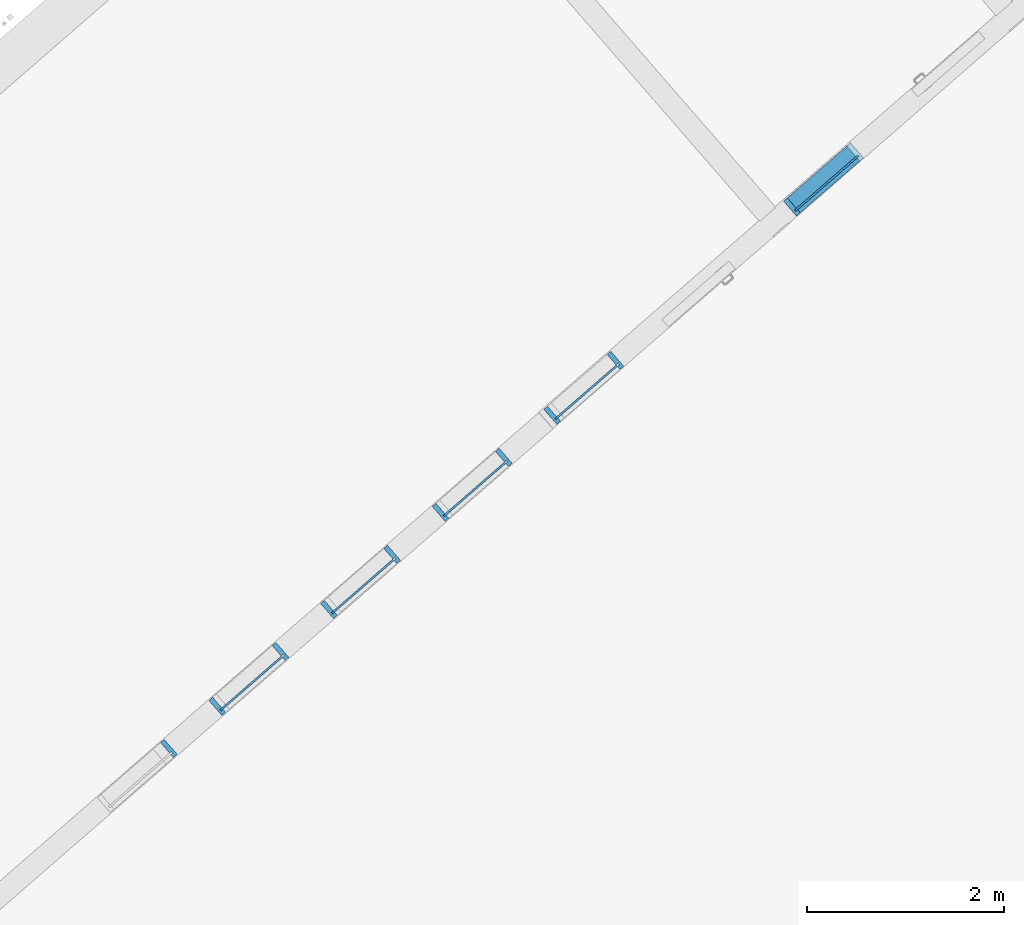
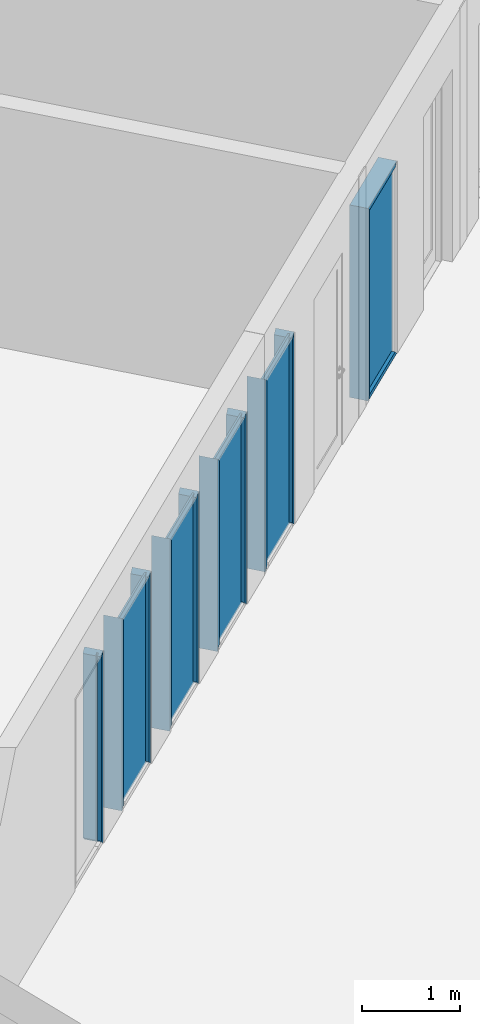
# One storey, part 6 of 124: 17 discrete accessories, 6 elements without a shape of their own.
"""IFC2X3 building model written with IfcOpenShell, lengths in millimetres."""

from ifc_helpers import new_model, entity, si_unit, converted_unit, derived_unit, money_unit, direction, frame, origin_with_axes, place, context, subcontext, project, spatial, polyline, outline, extrude, clip, halfspace, material, material_list, type_object, element, aggregate, save


model = new_model("IFC2X3")

# Units and contexts
model_context = context("Model", 3, precision=1e-05, world=origin_with_axes(), true_north=direction((0.0, 1.0)))
body_context = subcontext(model_context, "Body", "Model", "MODEL_VIEW")
ifc_project = project(units=[si_unit("LENGTHUNIT", "METRE", prefix="MILLI"), si_unit("AREAUNIT", "SQUARE_METRE"), si_unit("VOLUMEUNIT", "CUBIC_METRE"), converted_unit("PLANEANGLEUNIT", "DEGREE", entity("IfcPlaneAngleMeasure", 0.0174532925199), si_unit("PLANEANGLEUNIT", "RADIAN"), dimensions=[0, 0, 0, 0, 0, 0, 0]), si_unit("SOLIDANGLEUNIT", "STERADIAN"), money_unit("EUR"), converted_unit("TIMEUNIT", "Year", entity("IfcTimeMeasure", 31556926.0), si_unit("TIMEUNIT", "SECOND"), dimensions=[0, 0, 1, 0, 0, 0, 0]), si_unit("MASSUNIT", "GRAM", prefix="KILO"), si_unit("THERMODYNAMICTEMPERATUREUNIT", "DEGREE_CELSIUS"), si_unit("LUMINOUSINTENSITYUNIT", "LUMEN"), si_unit("ENERGYUNIT", "JOULE", prefix="MEGA"), derived_unit("THERMALCONDUCTANCEUNIT", [(si_unit("POWERUNIT", "WATT"), 1), (si_unit("LENGTHUNIT", "METRE"), -1), (si_unit("THERMODYNAMICTEMPERATUREUNIT", "KELVIN"), -1)]), derived_unit("SPECIFICHEATCAPACITYUNIT", [(si_unit("ENERGYUNIT", "JOULE"), 1), (si_unit("MASSUNIT", "GRAM", prefix="KILO"), -1), (si_unit("THERMODYNAMICTEMPERATUREUNIT", "KELVIN"), -1)]), derived_unit("MASSDENSITYUNIT", [(si_unit("MASSUNIT", "GRAM", prefix="KILO"), 1), (si_unit("VOLUMEUNIT", "CUBIC_METRE"), -1)])], contexts=[model_context])

# Site, building, storey
site_placement = place(None, origin_with_axes())
site = spatial("IfcSite", under=ifc_project, at=site_placement, Name="Site", CompositionType="ELEMENT")
building_placement = place(site_placement, origin_with_axes())
building = spatial("IfcBuilding", under=site, at=building_placement, Name="Building", CompositionType="ELEMENT")
storey_placement = place(building_placement, frame((0.0, 0.0, -1615.0), z_axis=(0.0, 0.0, 1.0), x_axis=(1.0, 0.0, 0.0)))
storey = spatial("IfcBuildingStorey", under=building, at=storey_placement, Name="0  korrus", CompositionType="ELEMENT", Elevation=-1615.0)

# Curtain wall, discrete accessory
curtain_wall_type = type_object("IfcCurtainWallType", Name="KS-07", PredefinedType="NOTDEFINED")
curtain_wall_1_placement = place(storey_placement, frame((145489.197566, 87628.0086428, -0.000131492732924), z_axis=(0.0, 0.0, 1.0), x_axis=(1.0, 0.0, 0.0)))
curtain_wall_1 = element("IfcCurtainWall", 1, at=curtain_wall_1_placement, inside=storey, type_object=curtain_wall_type, Name="Klaas-sein")
ifc_material_1 = material(Name="Aluminium MUST")
ifc_material_list = material_list([ifc_material_1, ifc_material_1, ifc_material_1])
discrete_accessory_type_1 = type_object("IfcDiscreteAccessoryType", Name="50 x 200")
discrete_accessory_1_placement = place(curtain_wall_1_placement, frame((264.148367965, 229.620673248, 0.0), z_axis=(0.0, 0.0, 1.0), x_axis=(-0.754709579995, -0.656059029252, 0.0)))
discrete_accessory_1 = element("IfcDiscreteAccessory", 2, at=discrete_accessory_1_placement, type_object=discrete_accessory_type_1, material=ifc_material_list, Name="KS-07 profiil", context=body_context, shape_type="Clipping", body=[
    clip(clip(extrude(outline(polyline([(-25.4283297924, -8.85437993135), (-12.3071492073, -23.9485715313), (6.56059029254, -7.54709579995), (-6.56059029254, 7.54709579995), (-25.4283297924, -8.85437993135)])), frame((0.0, 0.0, 0.0), z_axis=(0.0, 0.0, 1.0), x_axis=(-0.754709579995, 0.656059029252, 0.0)), (0.0, 0.0, 1.0), 2400.00001788), halfspace(frame((1200.00000894, 0.0, 1200.00000894), z_axis=(-0.707106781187, 0.0, -0.707106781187), x_axis=(0.0, 1.0, 0.0)), True)), halfspace(frame((0.0, 0.0, 0.0), z_axis=(-0.707106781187, 0.0, 0.707106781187), x_axis=(0.0, -1.0, 0.0)), True)),
    clip(clip(extrude(outline(polyline([(-136.144333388, 80.4034855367), (-44.2960692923, -25.2558556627), (-6.56059029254, 7.54709579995), (-98.4088543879, 113.206436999), (-136.144333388, 80.4034855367)])), frame((0.0, 0.0, 0.0), z_axis=(0.0, 0.0, 1.0), x_axis=(-0.754709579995, 0.656059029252, 0.0)), (0.0, 0.0, 1.0), 2400.00001788), halfspace(frame((1200.00000894, 0.0, 1200.00000894), z_axis=(-0.707106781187, 0.0, -0.707106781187), x_axis=(0.0, 1.0, 0.0)), True)), halfspace(frame((0.0, 0.0, 0.0), z_axis=(-0.707106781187, 0.0, 0.707106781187), x_axis=(0.0, -1.0, 0.0)), True)),
    clip(clip(extrude(outline(polyline([(32.8029514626, -37.7354789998), (6.56059029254, -7.54709579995), (-31.1748887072, -40.3500472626), (-4.93252753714, -70.5384304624), (32.8029514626, -37.7354789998)])), frame((0.0, 0.0, 0.0), z_axis=(0.0, 0.0, 1.0), x_axis=(-0.754709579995, 0.656059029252, 0.0)), (0.0, 0.0, 1.0), 2400.00001788), halfspace(frame((1200.00000894, 0.0, 1200.00000894), z_axis=(-0.707106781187, 0.0, -0.707106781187), x_axis=(0.0, 1.0, 0.0)), True)), halfspace(frame((0.0, 0.0, 0.0), z_axis=(-0.707106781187, 0.0, 0.707106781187), x_axis=(0.0, -1.0, 0.0)), True)),
])
aggregate(curtain_wall_1, [discrete_accessory_1])

# Curtain wall, discrete accessories
curtain_wall_2_placement = place(storey_placement, frame((152372.169212, 93611.2845687, 0.0), z_axis=(0.0, 0.0, 1.0), x_axis=(1.0, 0.0, 0.0)))
curtain_wall_2 = element("IfcCurtainWall", 3, at=curtain_wall_2_placement, inside=storey, type_object=curtain_wall_type, Name="Klaas-sein")
discrete_accessory_2_placement = place(curtain_wall_2_placement, frame((-339.619310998, -295.226563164, 2400.00001788), z_axis=(0.754709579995, 0.656059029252, 0.0), x_axis=(0.0, 0.0, 1.0)))
discrete_accessory_2 = element("IfcDiscreteAccessory", 4, at=discrete_accessory_2_placement, type_object=discrete_accessory_type_1, material=ifc_material_list, Name="KS-07 profiil", context=body_context, shape_type="Clipping", body=[
    clip(clip(extrude(outline(polyline([(-9.99999999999, 25.0), (-9.99999999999, 0.0), (10.0, 0.0), (10.0, 25.0), (-9.99999999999, 25.0)])), frame((0.0, 0.0, 0.0), z_axis=(0.0, 0.0, 1.0), x_axis=(0.0, 1.0, 0.0)), (0.0, 0.0, 1.0), 900.0), halfspace(frame((0.0, 0.0, 0.0), z_axis=(0.707106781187, 0.0, 0.707106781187), x_axis=(0.0, -1.0, 0.0)), True)), halfspace(frame((-450.0, 0.0, 450.0), z_axis=(0.707106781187, 0.0, -0.707106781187), x_axis=(0.0, 1.0, 0.0)), True)),
    clip(clip(extrude(outline(polyline([(-150.0, 50.0), (-150.0, 0.0), (-9.99999999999, 0.0), (-9.99999999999, 50.0), (-150.0, 50.0)])), frame((0.0, 0.0, 0.0), z_axis=(0.0, 0.0, 1.0), x_axis=(0.0, 1.0, 0.0)), (0.0, 0.0, 1.0), 900.0), halfspace(frame((0.0, 0.0, 0.0), z_axis=(0.707106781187, 0.0, 0.707106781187), x_axis=(0.0, -1.0, 0.0)), True)), halfspace(frame((-450.0, 0.0, 450.0), z_axis=(0.707106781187, 0.0, -0.707106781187), x_axis=(0.0, 1.0, 0.0)), True)),
    clip(clip(extrude(outline(polyline([(50.0, 0.0), (50.0, 50.0), (10.0, 50.0), (10.0, 0.0), (50.0, 0.0)])), frame((0.0, 0.0, 0.0), z_axis=(0.0, 0.0, 1.0), x_axis=(0.0, 1.0, 0.0)), (0.0, 0.0, 1.0), 900.0), halfspace(frame((0.0, 0.0, 0.0), z_axis=(0.707106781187, 0.0, 0.707106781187), x_axis=(0.0, -1.0, 0.0)), True)), halfspace(frame((-450.0, 0.0, 450.0), z_axis=(0.707106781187, 0.0, -0.707106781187), x_axis=(0.0, 1.0, 0.0)), True)),
])
discrete_accessory_3_placement = place(curtain_wall_2_placement, frame((-339.619310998, -295.226563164, 0.0), z_axis=(0.754709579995, 0.656059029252, 0.0), x_axis=(0.0, 0.0, 1.0)))
discrete_accessory_3 = element("IfcDiscreteAccessory", 5, at=discrete_accessory_3_placement, type_object=discrete_accessory_type_1, material=ifc_material_list, Name="KS-07 profiil", context=body_context, shape_type="Clipping", body=[
    clip(clip(extrude(outline(polyline([(-9.99999999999, -25.0), (10.0, -25.0), (10.0, 0.0), (-9.99999999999, 0.0), (-9.99999999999, -25.0)])), frame((0.0, 0.0, 0.0), z_axis=(0.0, 0.0, 1.0), x_axis=(0.0, 1.0, 0.0)), (0.0, 0.0, 1.0), 900.0), halfspace(frame((450.0, 0.0, 450.0), z_axis=(-0.707106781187, 0.0, -0.707106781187), x_axis=(0.0, 1.0, 0.0)), True)), halfspace(frame((0.0, 0.0, 0.0), z_axis=(-0.707106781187, 0.0, 0.707106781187), x_axis=(0.0, -1.0, 0.0)), True)),
    clip(clip(extrude(outline(polyline([(-150.0, -50.0), (-9.99999999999, -50.0), (-9.99999999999, 0.0), (-150.0, 0.0), (-150.0, -50.0)])), frame((0.0, 0.0, 0.0), z_axis=(0.0, 0.0, 1.0), x_axis=(0.0, 1.0, 0.0)), (0.0, 0.0, 1.0), 900.0), halfspace(frame((450.0, 0.0, 450.0), z_axis=(-0.707106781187, 0.0, -0.707106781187), x_axis=(0.0, 1.0, 0.0)), True)), halfspace(frame((0.0, 0.0, 0.0), z_axis=(-0.707106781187, 0.0, 0.707106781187), x_axis=(0.0, -1.0, 0.0)), True)),
    clip(clip(extrude(outline(polyline([(50.0, 0.0), (10.0, 0.0), (10.0, -50.0), (50.0, -50.0), (50.0, 0.0)])), frame((0.0, 0.0, 0.0), z_axis=(0.0, 0.0, 1.0), x_axis=(0.0, 1.0, 0.0)), (0.0, 0.0, 1.0), 900.0), halfspace(frame((450.0, 0.0, 450.0), z_axis=(-0.707106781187, 0.0, -0.707106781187), x_axis=(0.0, 1.0, 0.0)), True)), halfspace(frame((0.0, 0.0, 0.0), z_axis=(-0.707106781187, 0.0, 0.707106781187), x_axis=(0.0, -1.0, 0.0)), True)),
])
discrete_accessory_4_placement = place(curtain_wall_2_placement, frame((-339.619310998, -295.226563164, 0.0), z_axis=(0.0, 0.0, 1.0), x_axis=(-0.754709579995, -0.656059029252, 0.0)))
discrete_accessory_4 = element("IfcDiscreteAccessory", 6, at=discrete_accessory_4_placement, type_object=discrete_accessory_type_1, material=ifc_material_list, Name="KS-07 profiil", context=body_context, shape_type="Clipping", body=[
    clip(clip(extrude(outline(polyline([(12.3071492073, 23.9485715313), (-6.56059029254, 7.54709579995), (6.56059029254, -7.54709579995), (25.4283297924, 8.85437993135), (12.3071492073, 23.9485715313)])), frame((0.0, 0.0, 0.0), z_axis=(0.0, 0.0, 1.0), x_axis=(-0.754709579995, 0.656059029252, 0.0)), (0.0, 0.0, 1.0), 2400.00001788), halfspace(frame((0.0, 0.0, 0.0), z_axis=(0.707106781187, 0.0, 0.707106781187), x_axis=(0.0, -1.0, 0.0)), True)), halfspace(frame((-1200.00000894, 0.0, 1200.00000894), z_axis=(0.707106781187, 0.0, -0.707106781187), x_axis=(0.0, 1.0, 0.0)), True)),
    clip(clip(extrude(outline(polyline([(-60.6733753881, 146.009388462), (-98.4088543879, 113.206436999), (-6.56059029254, 7.54709579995), (31.1748887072, 40.3500472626), (-60.6733753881, 146.009388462)])), frame((0.0, 0.0, 0.0), z_axis=(0.0, 0.0, 1.0), x_axis=(-0.754709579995, 0.656059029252, 0.0)), (0.0, 0.0, 1.0), 2400.00001788), halfspace(frame((0.0, 0.0, 0.0), z_axis=(0.707106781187, 0.0, 0.707106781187), x_axis=(0.0, -1.0, 0.0)), True)), halfspace(frame((-1200.00000894, 0.0, 1200.00000894), z_axis=(0.707106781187, 0.0, -0.707106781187), x_axis=(0.0, 1.0, 0.0)), True)),
    clip(clip(extrude(outline(polyline([(32.8029514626, -37.7354789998), (70.5384304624, -4.93252753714), (44.2960692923, 25.2558556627), (6.56059029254, -7.54709579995), (32.8029514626, -37.7354789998)])), frame((0.0, 0.0, 0.0), z_axis=(0.0, 0.0, 1.0), x_axis=(-0.754709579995, 0.656059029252, 0.0)), (0.0, 0.0, 1.0), 2400.00001788), halfspace(frame((0.0, 0.0, 0.0), z_axis=(0.707106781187, 0.0, 0.707106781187), x_axis=(0.0, -1.0, 0.0)), True)), halfspace(frame((-1200.00000894, 0.0, 1200.00000894), z_axis=(0.707106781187, 0.0, -0.707106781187), x_axis=(0.0, 1.0, 0.0)), True)),
])

curtain_wall_3_placement = place(storey_placement, frame((146555.224842, 88554.6920151, -6.3855272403e-05), z_axis=(0.0, 0.0, 1.0), x_axis=(1.0, 0.0, 0.0)))
curtain_wall_3 = element("IfcCurtainWall", 7, at=curtain_wall_3_placement, inside=storey, type_object=curtain_wall_type, Name="Klaas-sein")
discrete_accessory_5_placement = place(curtain_wall_3_placement, frame((-349.053199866, -303.427317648, 2400.00001788), z_axis=(0.0, 0.0, -1.0), x_axis=(0.754709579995, 0.656059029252, 0.0)))
discrete_accessory_5 = element("IfcDiscreteAccessory", 8, at=discrete_accessory_5_placement, type_object=discrete_accessory_type_1, material=ifc_material_list, Name="KS-07 profiil", context=body_context, shape_type="Clipping", body=[
    clip(clip(extrude(outline(polyline([(12.3071492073, -23.9485715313), (25.4283297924, -8.85437993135), (6.56059029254, 7.54709579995), (-6.56059029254, -7.54709579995), (12.3071492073, -23.9485715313)])), frame((0.0, 0.0, 0.0), z_axis=(0.0, 0.0, 1.0), x_axis=(0.754709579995, 0.656059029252, 0.0)), (0.0, 0.0, 1.0), 2400.00001788), halfspace(frame((1200.00000894, -1.86517469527e-10, 1200.00000894), z_axis=(-0.707106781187, 0.0, -0.707106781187), x_axis=(0.0, 1.0, 0.0)), True)), halfspace(frame((0.0, 0.0, 0.0), z_axis=(-0.707106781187, 0.0, 0.707106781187), x_axis=(0.0, -1.0, 0.0)), True)),
    clip(clip(extrude(outline(polyline([(-60.6733753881, -146.009388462), (31.1748887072, -40.3500472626), (-6.56059029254, -7.54709579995), (-98.4088543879, -113.206436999), (-60.6733753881, -146.009388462)])), frame((0.0, 0.0, 0.0), z_axis=(0.0, 0.0, 1.0), x_axis=(0.754709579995, 0.656059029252, 0.0)), (0.0, 0.0, 1.0), 2400.00001788), halfspace(frame((1200.00000894, -1.73194793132e-10, 1200.00000894), z_axis=(-0.707106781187, 0.0, -0.707106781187), x_axis=(0.0, 1.0, 0.0)), True)), halfspace(frame((0.0, 0.0, 0.0), z_axis=(-0.707106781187, 0.0, 0.707106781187), x_axis=(0.0, -1.0, 0.0)), True)),
    clip(clip(extrude(outline(polyline([(32.8029514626, 37.7354789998), (6.56059029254, 7.54709579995), (44.2960692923, -25.2558556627), (70.5384304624, 4.93252753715), (32.8029514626, 37.7354789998)])), frame((0.0, 0.0, 0.0), z_axis=(0.0, 0.0, 1.0), x_axis=(0.754709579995, 0.656059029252, 0.0)), (0.0, 0.0, 1.0), 2400.00001788), halfspace(frame((1200.00000894, -1.73194793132e-10, 1200.00000894), z_axis=(-0.707106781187, 0.0, -0.707106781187), x_axis=(0.0, 1.0, 0.0)), True)), halfspace(frame((0.0, 0.0, 0.0), z_axis=(-0.707106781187, 0.0, 0.707106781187), x_axis=(0.0, -1.0, 0.0)), True)),
])
discrete_accessory_6_placement = place(curtain_wall_3_placement, frame((330.185462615, 287.025843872, 0.0), z_axis=(0.0, 0.0, 1.0), x_axis=(-0.754709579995, -0.656059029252, 0.0)))
discrete_accessory_6 = element("IfcDiscreteAccessory", 9, at=discrete_accessory_6_placement, type_object=discrete_accessory_type_1, material=ifc_material_list, Name="KS-07 profiil", context=body_context, shape_type="Clipping", body=[
    clip(clip(extrude(outline(polyline([(-25.4283297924, -8.85437993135), (-12.3071492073, -23.9485715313), (6.56059029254, -7.54709579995), (-6.56059029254, 7.54709579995), (-25.4283297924, -8.85437993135)])), frame((0.0, 0.0, 0.0), z_axis=(0.0, 0.0, 1.0), x_axis=(-0.754709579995, 0.656059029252, 0.0)), (0.0, 0.0, 1.0), 2400.00001788), halfspace(frame((1200.00000894, 0.0, 1200.00000894), z_axis=(-0.707106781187, 0.0, -0.707106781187), x_axis=(0.0, 1.0, 0.0)), True)), halfspace(frame((0.0, 0.0, 0.0), z_axis=(-0.707106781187, 0.0, 0.707106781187), x_axis=(0.0, -1.0, 0.0)), True)),
    clip(clip(extrude(outline(polyline([(-136.144333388, 80.4034855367), (-44.2960692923, -25.2558556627), (-6.56059029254, 7.54709579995), (-98.4088543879, 113.206436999), (-136.144333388, 80.4034855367)])), frame((0.0, 0.0, 0.0), z_axis=(0.0, 0.0, 1.0), x_axis=(-0.754709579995, 0.656059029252, 0.0)), (0.0, 0.0, 1.0), 2400.00001788), halfspace(frame((1200.00000894, 0.0, 1200.00000894), z_axis=(-0.707106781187, 0.0, -0.707106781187), x_axis=(0.0, 1.0, 0.0)), True)), halfspace(frame((0.0, 0.0, 0.0), z_axis=(-0.707106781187, 0.0, 0.707106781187), x_axis=(0.0, -1.0, 0.0)), True)),
    clip(clip(extrude(outline(polyline([(32.8029514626, -37.7354789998), (6.56059029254, -7.54709579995), (-31.1748887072, -40.3500472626), (-4.93252753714, -70.5384304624), (32.8029514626, -37.7354789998)])), frame((0.0, 0.0, 0.0), z_axis=(0.0, 0.0, 1.0), x_axis=(-0.754709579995, 0.656059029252, 0.0)), (0.0, 0.0, 1.0), 2400.00001788), halfspace(frame((1200.00000894, 0.0, 1200.00000894), z_axis=(-0.707106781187, 0.0, -0.707106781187), x_axis=(0.0, 1.0, 0.0)), True)), halfspace(frame((0.0, 0.0, 0.0), z_axis=(-0.707106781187, 0.0, 0.707106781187), x_axis=(0.0, -1.0, 0.0)), True)),
])

curtain_wall_4_placement = place(storey_placement, frame((149951.417943, 91506.9576387, 0.0), z_axis=(0.0, 0.0, 1.0), x_axis=(1.0, 0.0, 0.0)))
curtain_wall_4 = element("IfcCurtainWall", 10, at=curtain_wall_4_placement, inside=storey, type_object=curtain_wall_type, Name="Klaas-sein")
discrete_accessory_7_placement = place(curtain_wall_4_placement, frame((-349.053199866, -303.427317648, 2400.00001788), z_axis=(0.0, 0.0, -1.0), x_axis=(0.754709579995, 0.656059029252, 0.0)))
discrete_accessory_7 = element("IfcDiscreteAccessory", 11, at=discrete_accessory_7_placement, type_object=discrete_accessory_type_1, material=ifc_material_list, Name="KS-07 profiil", context=body_context, shape_type="Clipping", body=[
    clip(clip(extrude(outline(polyline([(12.3071492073, -23.9485715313), (25.4283297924, -8.85437993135), (6.56059029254, 7.54709579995), (-6.56059029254, -7.54709579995), (12.3071492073, -23.9485715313)])), frame((0.0, 0.0, 0.0), z_axis=(0.0, 0.0, 1.0), x_axis=(0.754709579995, 0.656059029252, 0.0)), (0.0, 0.0, 1.0), 2400.00001788), halfspace(frame((1200.00000894, -1.86517469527e-10, 1200.00000894), z_axis=(-0.707106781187, 0.0, -0.707106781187), x_axis=(0.0, 1.0, 0.0)), True)), halfspace(frame((0.0, 0.0, 0.0), z_axis=(-0.707106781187, 0.0, 0.707106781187), x_axis=(0.0, -1.0, 0.0)), True)),
    clip(clip(extrude(outline(polyline([(-60.6733753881, -146.009388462), (31.1748887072, -40.3500472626), (-6.56059029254, -7.54709579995), (-98.4088543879, -113.206436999), (-60.6733753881, -146.009388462)])), frame((0.0, 0.0, 0.0), z_axis=(0.0, 0.0, 1.0), x_axis=(0.754709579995, 0.656059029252, 0.0)), (0.0, 0.0, 1.0), 2400.00001788), halfspace(frame((1200.00000894, -1.73194793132e-10, 1200.00000894), z_axis=(-0.707106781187, 0.0, -0.707106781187), x_axis=(0.0, 1.0, 0.0)), True)), halfspace(frame((0.0, 0.0, 0.0), z_axis=(-0.707106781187, 0.0, 0.707106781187), x_axis=(0.0, -1.0, 0.0)), True)),
    clip(clip(extrude(outline(polyline([(32.8029514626, 37.7354789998), (6.56059029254, 7.54709579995), (44.2960692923, -25.2558556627), (70.5384304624, 4.93252753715), (32.8029514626, 37.7354789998)])), frame((0.0, 0.0, 0.0), z_axis=(0.0, 0.0, 1.0), x_axis=(0.754709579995, 0.656059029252, 0.0)), (0.0, 0.0, 1.0), 2400.00001788), halfspace(frame((1200.00000894, -1.73194793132e-10, 1200.00000894), z_axis=(-0.707106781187, 0.0, -0.707106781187), x_axis=(0.0, 1.0, 0.0)), True)), halfspace(frame((0.0, 0.0, 0.0), z_axis=(-0.707106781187, 0.0, 0.707106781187), x_axis=(0.0, -1.0, 0.0)), True)),
])
discrete_accessory_8_placement = place(curtain_wall_4_placement, frame((330.185462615, 287.025843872, 0.0), z_axis=(0.0, 0.0, 1.0), x_axis=(-0.754709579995, -0.656059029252, 0.0)))
discrete_accessory_8 = element("IfcDiscreteAccessory", 12, at=discrete_accessory_8_placement, type_object=discrete_accessory_type_1, material=ifc_material_list, Name="KS-07 profiil", context=body_context, shape_type="Clipping", body=[
    clip(clip(extrude(outline(polyline([(-25.4283297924, -8.85437993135), (-12.3071492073, -23.9485715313), (6.56059029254, -7.54709579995), (-6.56059029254, 7.54709579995), (-25.4283297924, -8.85437993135)])), frame((0.0, 0.0, 0.0), z_axis=(0.0, 0.0, 1.0), x_axis=(-0.754709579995, 0.656059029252, 0.0)), (0.0, 0.0, 1.0), 2400.00001788), halfspace(frame((1200.00000894, -2.66453527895e-10, 1200.00000894), z_axis=(-0.707106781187, 0.0, -0.707106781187), x_axis=(0.0, 1.0, 0.0)), True)), halfspace(frame((0.0, 0.0, 0.0), z_axis=(-0.707106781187, 0.0, 0.707106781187), x_axis=(0.0, -1.0, 0.0)), True)),
    clip(clip(extrude(outline(polyline([(-136.144333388, 80.4034855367), (-44.2960692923, -25.2558556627), (-6.56059029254, 7.54709579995), (-98.4088543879, 113.206436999), (-136.144333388, 80.4034855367)])), frame((0.0, 0.0, 0.0), z_axis=(0.0, 0.0, 1.0), x_axis=(-0.754709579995, 0.656059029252, 0.0)), (0.0, 0.0, 1.0), 2400.00001788), halfspace(frame((1200.00000894, -2.55034090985e-10, 1200.00000894), z_axis=(-0.707106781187, 0.0, -0.707106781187), x_axis=(0.0, 1.0, 0.0)), True)), halfspace(frame((0.0, 0.0, 0.0), z_axis=(-0.707106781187, 0.0, 0.707106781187), x_axis=(0.0, -1.0, 0.0)), True)),
    clip(clip(extrude(outline(polyline([(32.8029514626, -37.7354789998), (6.56059029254, -7.54709579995), (-31.1748887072, -40.3500472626), (-4.93252753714, -70.5384304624), (32.8029514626, -37.7354789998)])), frame((0.0, 0.0, 0.0), z_axis=(0.0, 0.0, 1.0), x_axis=(-0.754709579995, 0.656059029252, 0.0)), (0.0, 0.0, 1.0), 2400.00001788), halfspace(frame((1200.00000894, -2.59792189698e-10, 1200.00000894), z_axis=(-0.707106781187, 0.0, -0.707106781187), x_axis=(0.0, 1.0, 0.0)), True)), halfspace(frame((0.0, 0.0, 0.0), z_axis=(-0.707106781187, 0.0, 0.707106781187), x_axis=(0.0, -1.0, 0.0)), True)),
])

curtain_wall_5_placement = place(storey_placement, frame((148819.353582, 90522.8691025, 0.0), z_axis=(0.0, 0.0, 1.0), x_axis=(1.0, 0.0, 0.0)))
curtain_wall_5 = element("IfcCurtainWall", 13, at=curtain_wall_5_placement, inside=storey, type_object=curtain_wall_type, Name="Klaas-sein")
discrete_accessory_9_placement = place(curtain_wall_5_placement, frame((-349.053199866, -303.427317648, 2400.00001788), z_axis=(0.0, 0.0, -1.0), x_axis=(0.754709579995, 0.656059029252, 0.0)))
discrete_accessory_9 = element("IfcDiscreteAccessory", 14, at=discrete_accessory_9_placement, type_object=discrete_accessory_type_1, material=ifc_material_list, Name="KS-07 profiil", context=body_context, shape_type="Clipping", body=[
    clip(clip(extrude(outline(polyline([(12.3071492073, -23.9485715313), (25.4283297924, -8.85437993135), (6.56059029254, 7.54709579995), (-6.56059029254, -7.54709579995), (12.3071492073, -23.9485715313)])), frame((0.0, 0.0, 0.0), z_axis=(0.0, 0.0, 1.0), x_axis=(0.754709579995, 0.656059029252, 0.0)), (0.0, 0.0, 1.0), 2400.00001788), halfspace(frame((1200.00000894, -1.86517469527e-10, 1200.00000894), z_axis=(-0.707106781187, 0.0, -0.707106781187), x_axis=(0.0, 1.0, 0.0)), True)), halfspace(frame((0.0, 0.0, 0.0), z_axis=(-0.707106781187, 0.0, 0.707106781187), x_axis=(0.0, -1.0, 0.0)), True)),
    clip(clip(extrude(outline(polyline([(-60.6733753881, -146.009388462), (31.1748887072, -40.3500472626), (-6.56059029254, -7.54709579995), (-98.4088543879, -113.206436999), (-60.6733753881, -146.009388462)])), frame((0.0, 0.0, 0.0), z_axis=(0.0, 0.0, 1.0), x_axis=(0.754709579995, 0.656059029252, 0.0)), (0.0, 0.0, 1.0), 2400.00001788), halfspace(frame((1200.00000894, -1.73194793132e-10, 1200.00000894), z_axis=(-0.707106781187, 0.0, -0.707106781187), x_axis=(0.0, 1.0, 0.0)), True)), halfspace(frame((0.0, 0.0, 0.0), z_axis=(-0.707106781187, 0.0, 0.707106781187), x_axis=(0.0, -1.0, 0.0)), True)),
    clip(clip(extrude(outline(polyline([(32.8029514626, 37.7354789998), (6.56059029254, 7.54709579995), (44.2960692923, -25.2558556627), (70.5384304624, 4.93252753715), (32.8029514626, 37.7354789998)])), frame((0.0, 0.0, 0.0), z_axis=(0.0, 0.0, 1.0), x_axis=(0.754709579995, 0.656059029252, 0.0)), (0.0, 0.0, 1.0), 2400.00001788), halfspace(frame((1200.00000894, -1.73194793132e-10, 1200.00000894), z_axis=(-0.707106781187, 0.0, -0.707106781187), x_axis=(0.0, 1.0, 0.0)), True)), halfspace(frame((0.0, 0.0, 0.0), z_axis=(-0.707106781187, 0.0, 0.707106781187), x_axis=(0.0, -1.0, 0.0)), True)),
])
discrete_accessory_10_placement = place(curtain_wall_5_placement, frame((330.185462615, 287.025843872, 0.0), z_axis=(0.0, 0.0, 1.0), x_axis=(-0.754709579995, -0.656059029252, 0.0)))
discrete_accessory_10 = element("IfcDiscreteAccessory", 15, at=discrete_accessory_10_placement, type_object=discrete_accessory_type_1, material=ifc_material_list, Name="KS-07 profiil", context=body_context, shape_type="Clipping", body=[
    clip(clip(extrude(outline(polyline([(-25.4283297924, -8.85437993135), (-12.3071492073, -23.9485715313), (6.56059029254, -7.54709579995), (-6.56059029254, 7.54709579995), (-25.4283297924, -8.85437993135)])), frame((0.0, 0.0, 0.0), z_axis=(0.0, 0.0, 1.0), x_axis=(-0.754709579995, 0.656059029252, 0.0)), (0.0, 0.0, 1.0), 2400.00001788), halfspace(frame((1200.00000894, -2.66453527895e-10, 1200.00000894), z_axis=(-0.707106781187, 0.0, -0.707106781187), x_axis=(0.0, 1.0, 0.0)), True)), halfspace(frame((0.0, 0.0, 0.0), z_axis=(-0.707106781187, 0.0, 0.707106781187), x_axis=(0.0, -1.0, 0.0)), True)),
    clip(clip(extrude(outline(polyline([(-136.144333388, 80.4034855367), (-44.2960692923, -25.2558556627), (-6.56059029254, 7.54709579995), (-98.4088543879, 113.206436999), (-136.144333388, 80.4034855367)])), frame((0.0, 0.0, 0.0), z_axis=(0.0, 0.0, 1.0), x_axis=(-0.754709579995, 0.656059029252, 0.0)), (0.0, 0.0, 1.0), 2400.00001788), halfspace(frame((1200.00000894, -2.55034090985e-10, 1200.00000894), z_axis=(-0.707106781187, 0.0, -0.707106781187), x_axis=(0.0, 1.0, 0.0)), True)), halfspace(frame((0.0, 0.0, 0.0), z_axis=(-0.707106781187, 0.0, 0.707106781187), x_axis=(0.0, -1.0, 0.0)), True)),
    clip(clip(extrude(outline(polyline([(32.8029514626, -37.7354789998), (6.56059029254, -7.54709579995), (-31.1748887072, -40.3500472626), (-4.93252753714, -70.5384304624), (32.8029514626, -37.7354789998)])), frame((0.0, 0.0, 0.0), z_axis=(0.0, 0.0, 1.0), x_axis=(-0.754709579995, 0.656059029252, 0.0)), (0.0, 0.0, 1.0), 2400.00001788), halfspace(frame((1200.00000894, -2.59792189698e-10, 1200.00000894), z_axis=(-0.707106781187, 0.0, -0.707106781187), x_axis=(0.0, 1.0, 0.0)), True)), halfspace(frame((0.0, 0.0, 0.0), z_axis=(-0.707106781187, 0.0, 0.707106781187), x_axis=(0.0, -1.0, 0.0)), True)),
])

curtain_wall_6_placement = place(storey_placement, frame((147687.289181, 89538.7805306, -1.78814105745e-05), z_axis=(0.0, 0.0, 1.0), x_axis=(1.0, 0.0, 0.0)))
curtain_wall_6 = element("IfcCurtainWall", 16, at=curtain_wall_6_placement, inside=storey, type_object=curtain_wall_type, Name="Klaas-sein")
discrete_accessory_11_placement = place(curtain_wall_6_placement, frame((-349.053199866, -303.427317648, 2400.00001788), z_axis=(0.0, 0.0, -1.0), x_axis=(0.754709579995, 0.656059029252, 0.0)))
discrete_accessory_11 = element("IfcDiscreteAccessory", 17, at=discrete_accessory_11_placement, type_object=discrete_accessory_type_1, material=ifc_material_list, Name="KS-07 profiil", context=body_context, shape_type="Clipping", body=[
    clip(clip(extrude(outline(polyline([(12.3071492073, -23.9485715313), (25.4283297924, -8.85437993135), (6.56059029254, 7.54709579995), (-6.56059029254, -7.54709579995), (12.3071492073, -23.9485715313)])), frame((0.0, 0.0, 0.0), z_axis=(0.0, 0.0, 1.0), x_axis=(0.754709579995, 0.656059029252, 0.0)), (0.0, 0.0, 1.0), 2400.00001788), halfspace(frame((1200.00000894, -1.86517469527e-10, 1200.00000894), z_axis=(-0.707106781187, 0.0, -0.707106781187), x_axis=(0.0, 1.0, 0.0)), True)), halfspace(frame((0.0, 0.0, 0.0), z_axis=(-0.707106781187, 0.0, 0.707106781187), x_axis=(0.0, -1.0, 0.0)), True)),
    clip(clip(extrude(outline(polyline([(-60.6733753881, -146.009388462), (31.1748887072, -40.3500472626), (-6.56059029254, -7.54709579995), (-98.4088543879, -113.206436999), (-60.6733753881, -146.009388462)])), frame((0.0, 0.0, 0.0), z_axis=(0.0, 0.0, 1.0), x_axis=(0.754709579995, 0.656059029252, 0.0)), (0.0, 0.0, 1.0), 2400.00001788), halfspace(frame((1200.00000894, -1.73194793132e-10, 1200.00000894), z_axis=(-0.707106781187, 0.0, -0.707106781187), x_axis=(0.0, 1.0, 0.0)), True)), halfspace(frame((0.0, 0.0, 0.0), z_axis=(-0.707106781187, 0.0, 0.707106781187), x_axis=(0.0, -1.0, 0.0)), True)),
    clip(clip(extrude(outline(polyline([(32.8029514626, 37.7354789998), (6.56059029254, 7.54709579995), (44.2960692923, -25.2558556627), (70.5384304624, 4.93252753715), (32.8029514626, 37.7354789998)])), frame((0.0, 0.0, 0.0), z_axis=(0.0, 0.0, 1.0), x_axis=(0.754709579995, 0.656059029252, 0.0)), (0.0, 0.0, 1.0), 2400.00001788), halfspace(frame((1200.00000894, -1.73194793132e-10, 1200.00000894), z_axis=(-0.707106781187, 0.0, -0.707106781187), x_axis=(0.0, 1.0, 0.0)), True)), halfspace(frame((0.0, 0.0, 0.0), z_axis=(-0.707106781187, 0.0, 0.707106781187), x_axis=(0.0, -1.0, 0.0)), True)),
])
discrete_accessory_12_placement = place(curtain_wall_6_placement, frame((330.185462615, 287.025843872, 0.0), z_axis=(0.0, 0.0, 1.0), x_axis=(-0.754709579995, -0.656059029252, 0.0)))
discrete_accessory_12 = element("IfcDiscreteAccessory", 18, at=discrete_accessory_12_placement, type_object=discrete_accessory_type_1, material=ifc_material_list, Name="KS-07 profiil", context=body_context, shape_type="Clipping", body=[
    clip(clip(extrude(outline(polyline([(-25.4283297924, -8.85437993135), (-12.3071492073, -23.9485715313), (6.56059029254, -7.54709579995), (-6.56059029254, 7.54709579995), (-25.4283297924, -8.85437993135)])), frame((0.0, 0.0, 0.0), z_axis=(0.0, 0.0, 1.0), x_axis=(-0.754709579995, 0.656059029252, 0.0)), (0.0, 0.0, 1.0), 2400.00001788), halfspace(frame((1200.00000894, 0.0, 1200.00000894), z_axis=(-0.707106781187, 0.0, -0.707106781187), x_axis=(0.0, 1.0, 0.0)), True)), halfspace(frame((0.0, 0.0, 0.0), z_axis=(-0.707106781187, 0.0, 0.707106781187), x_axis=(0.0, -1.0, 0.0)), True)),
    clip(clip(extrude(outline(polyline([(-136.144333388, 80.4034855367), (-44.2960692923, -25.2558556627), (-6.56059029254, 7.54709579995), (-98.4088543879, 113.206436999), (-136.144333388, 80.4034855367)])), frame((0.0, 0.0, 0.0), z_axis=(0.0, 0.0, 1.0), x_axis=(-0.754709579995, 0.656059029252, 0.0)), (0.0, 0.0, 1.0), 2400.00001788), halfspace(frame((1200.00000894, 0.0, 1200.00000894), z_axis=(-0.707106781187, 0.0, -0.707106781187), x_axis=(0.0, 1.0, 0.0)), True)), halfspace(frame((0.0, 0.0, 0.0), z_axis=(-0.707106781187, 0.0, 0.707106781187), x_axis=(0.0, -1.0, 0.0)), True)),
    clip(clip(extrude(outline(polyline([(32.8029514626, -37.7354789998), (6.56059029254, -7.54709579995), (-31.1748887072, -40.3500472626), (-4.93252753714, -70.5384304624), (32.8029514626, -37.7354789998)])), frame((0.0, 0.0, 0.0), z_axis=(0.0, 0.0, 1.0), x_axis=(-0.754709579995, 0.656059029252, 0.0)), (0.0, 0.0, 1.0), 2400.00001788), halfspace(frame((1200.00000894, 0.0, 1200.00000894), z_axis=(-0.707106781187, 0.0, -0.707106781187), x_axis=(0.0, 1.0, 0.0)), True)), halfspace(frame((0.0, 0.0, 0.0), z_axis=(-0.707106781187, 0.0, 0.707106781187), x_axis=(0.0, -1.0, 0.0)), True)),
])

# Discrete accessory
ifc_material_2 = material(Name="Klaas")
discrete_accessory_type_2 = type_object("IfcDiscreteAccessoryType", Name="Distinct Panel 860 x 2360 x 20")
discrete_accessory_13_placement = place(curtain_wall_2_placement, frame((0.0, 0.0, 1200.00000894), z_axis=(0.0, 0.0, 1.0), x_axis=(-0.754709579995, -0.656059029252, 0.0)))
discrete_accessory_13 = element("IfcDiscreteAccessory", 19, at=discrete_accessory_13_placement, type_object=discrete_accessory_type_2, material=ifc_material_2, Name="KS-07 klaaspakett", context=body_context, shape_type="SweptSolid", body=[
    extrude(outline(polyline([(-430.000006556, -1180.00000879), (429.999999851, -1180.00000879), (429.999999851, 1180.00000879), (-430.000006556, 1180.00000879), (-430.000006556, -1180.00000879)])), frame((0.0, -10.0, 0.0), z_axis=(0.0, 1.0, 0.0), x_axis=(1.0, 0.0, 0.0)), (0.0, 0.0, 1.0), 20.0),
])

aggregate(curtain_wall_2, [discrete_accessory_13, discrete_accessory_2, discrete_accessory_3, discrete_accessory_4])

discrete_accessory_type_3 = type_object("IfcDiscreteAccessoryType", Name="Distinct Panel 80 x 2360 x 20")
discrete_accessory_14_placement = place(curtain_wall_3_placement, frame((0.0, 0.0, 1200.00000894), z_axis=(0.0, 0.0, 1.0), x_axis=(-0.754709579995, -0.656059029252, 0.0)))
discrete_accessory_14 = element("IfcDiscreteAccessory", 20, at=discrete_accessory_14_placement, type_object=discrete_accessory_type_3, material=ifc_material_2, Name="KS-07 klaaspakett", context=body_context, shape_type="SweptSolid", body=[
    extrude(outline(polyline([(-417.500016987, -1180.00000879), (442.500025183, -1180.00000879), (442.500025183, 1180.00000879), (-417.500016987, 1180.00000879), (-417.500016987, -1180.00000879)])), frame((0.0, -10.0, 0.0), z_axis=(0.0, 1.0, 0.0), x_axis=(1.0, 0.0, 0.0)), (0.0, 0.0, 1.0), 20.0),
])

aggregate(curtain_wall_3, [discrete_accessory_14, discrete_accessory_5, discrete_accessory_6])

discrete_accessory_15_placement = place(curtain_wall_4_placement, frame((0.0, 0.0, 1200.00000894), z_axis=(0.0, 0.0, 1.0), x_axis=(-0.754709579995, -0.656059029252, 0.0)))
discrete_accessory_15 = element("IfcDiscreteAccessory", 21, at=discrete_accessory_15_placement, type_object=discrete_accessory_type_3, material=ifc_material_2, Name="KS-07 klaaspakett", context=body_context, shape_type="SweptSolid", body=[
    extrude(outline(polyline([(-417.500016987, -1180.00000879), (442.500025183, -1180.00000879), (442.500025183, 1180.00000879), (-417.500016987, 1180.00000879), (-417.500016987, -1180.00000879)])), frame((0.0, -10.0, 0.0), z_axis=(0.0, 1.0, 0.0), x_axis=(1.0, 0.0, 0.0)), (0.0, 0.0, 1.0), 20.0),
])

aggregate(curtain_wall_4, [discrete_accessory_15, discrete_accessory_7, discrete_accessory_8])

discrete_accessory_16_placement = place(curtain_wall_5_placement, frame((0.0, 0.0, 1200.00000894), z_axis=(0.0, 0.0, 1.0), x_axis=(-0.754709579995, -0.656059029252, 0.0)))
discrete_accessory_16 = element("IfcDiscreteAccessory", 22, at=discrete_accessory_16_placement, type_object=discrete_accessory_type_3, material=ifc_material_2, Name="KS-07 klaaspakett", context=body_context, shape_type="SweptSolid", body=[
    extrude(outline(polyline([(-417.500016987, -1180.00000879), (442.500025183, -1180.00000879), (442.500025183, 1180.00000879), (-417.500016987, 1180.00000879), (-417.500016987, -1180.00000879)])), frame((0.0, -10.0, 0.0), z_axis=(0.0, 1.0, 0.0), x_axis=(1.0, 0.0, 0.0)), (0.0, 0.0, 1.0), 20.0),
])

aggregate(curtain_wall_5, [discrete_accessory_16, discrete_accessory_9, discrete_accessory_10])

discrete_accessory_17_placement = place(curtain_wall_6_placement, frame((0.0, 0.0, 1200.00000894), z_axis=(0.0, 0.0, 1.0), x_axis=(-0.754709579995, -0.656059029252, 0.0)))
discrete_accessory_17 = element("IfcDiscreteAccessory", 23, at=discrete_accessory_17_placement, type_object=discrete_accessory_type_3, material=ifc_material_2, Name="KS-07 klaaspakett", context=body_context, shape_type="SweptSolid", body=[
    extrude(outline(polyline([(-417.500016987, -1180.00000879), (442.500025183, -1180.00000879), (442.500025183, 1180.00000879), (-417.500016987, 1180.00000879), (-417.500016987, -1180.00000879)])), frame((0.0, -10.0, 0.0), z_axis=(0.0, 1.0, 0.0), x_axis=(1.0, 0.0, 0.0)), (0.0, 0.0, 1.0), 20.0),
])

aggregate(curtain_wall_6, [discrete_accessory_17, discrete_accessory_11, discrete_accessory_12])

save(model, "model.ifc")
